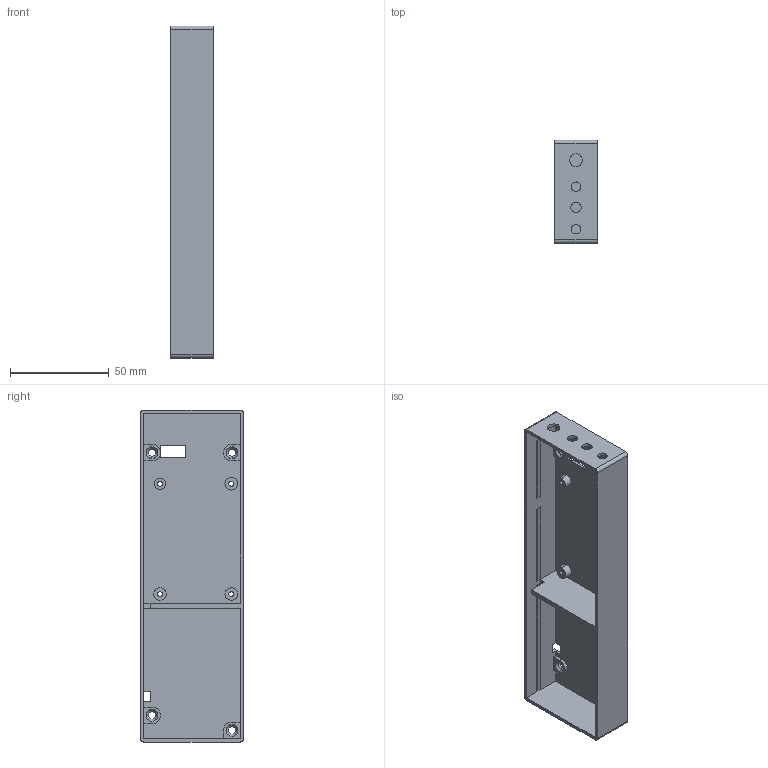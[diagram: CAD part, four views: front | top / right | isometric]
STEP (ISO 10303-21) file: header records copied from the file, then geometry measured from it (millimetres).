
FILE_DESCRIPTION (( 'STEP AP214' ), '1' );
FILE_NAME ('electronics box.STEP', '2021-06-11T04:50:48', ( '' ), ( '' ), 'SwSTEP 2.0', 'SolidWorks 2016', '' );
FILE_SCHEMA (( 'AUTOMOTIVE_DESIGN' ));
Length unit declared in the file: inch
Products named in the file (1): electronics box
Bounding box: 21.59 x 52.28 x 168.12 mm (x, y, z)
Volume: 26471 mm3; surface area: 38115.1 mm2
Topology: 1 solids, 1 shells, 115 faces, 316 edges, 208 vertices
Faces by surface type: plane 64, cylinder 41, cone 10
Entity records: 3756 total; most frequent: DIRECTION 642, CARTESIAN_POINT 640, ORIENTED_EDGE 632, EDGE_CURVE 316, LINE 222, VECTOR 222, AXIS2_PLACEMENT_3D 210, VERTEX_POINT 208
